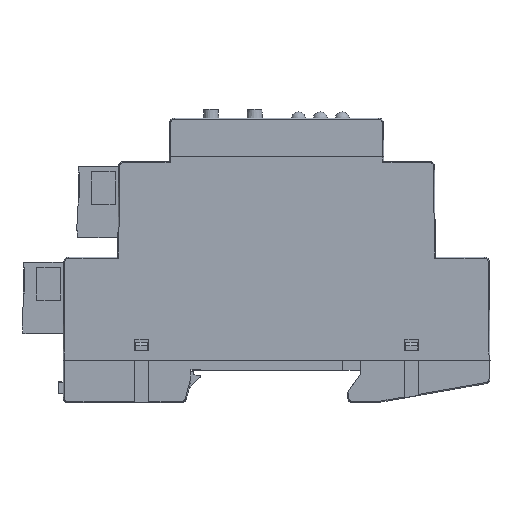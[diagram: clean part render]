
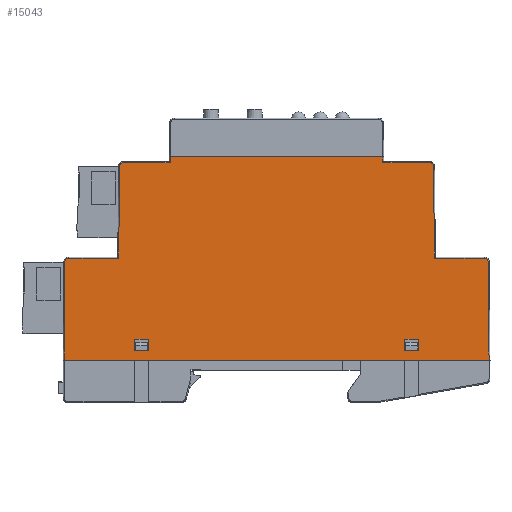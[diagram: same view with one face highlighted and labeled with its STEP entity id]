
A CAD part, top view. The second image highlights one B-rep face of the part: STEP entity #15043.
In plain terms, the highlighted planar face has unit normal (0, 0, 1).
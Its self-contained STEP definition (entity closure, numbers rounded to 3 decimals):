
#56=(
BOUNDED_CURVE()
B_SPLINE_CURVE(2,(#23914,#23915,#23916),.UNSPECIFIED.,.F.,.F.)
B_SPLINE_CURVE_WITH_KNOTS((3,3),(0.,0.12),
 .UNSPECIFIED.)
CURVE()
GEOMETRIC_REPRESENTATION_ITEM()
RATIONAL_B_SPLINE_CURVE((1.,0.984,0.984))
REPRESENTATION_ITEM('')
);
#124=FACE_BOUND('',#3019,.T.);
#125=FACE_BOUND('',#3020,.T.);
#1486=PLANE('',#16126);
#2187=FACE_OUTER_BOUND('',#3018,.T.);
#3018=EDGE_LOOP('',(#13463,#13464,#13465,#13466,#13467,#13468,#13469,#13470,
#13471,#13472,#13473,#13474,#13475,#13476,#13477,#13478));
#3019=EDGE_LOOP('',(#13479,#13480,#13481,#13482));
#3020=EDGE_LOOP('',(#13483,#13484,#13485,#13486));
#4534=LINE('',#23693,#6168);
#4572=LINE('',#23874,#6206);
#4575=LINE('',#23879,#6209);
#4577=LINE('',#23884,#6211);
#4580=LINE('',#23889,#6214);
#4589=LINE('',#23918,#6223);
#4590=LINE('',#23922,#6224);
#4591=LINE('',#23924,#6225);
#4592=LINE('',#23927,#6226);
#4593=LINE('',#23929,#6227);
#4594=LINE('',#23933,#6228);
#4595=LINE('',#23935,#6229);
#4596=LINE('',#23939,#6230);
#4597=LINE('',#23941,#6231);
#4598=LINE('',#23942,#6232);
#4599=LINE('',#23944,#6233);
#4600=LINE('',#23945,#6234);
#4601=LINE('',#23947,#6235);
#4602=LINE('',#23948,#6236);
#6168=VECTOR('',#19411,10.);
#6206=VECTOR('',#19601,10.);
#6209=VECTOR('',#19606,10.);
#6211=VECTOR('',#19610,10.);
#6214=VECTOR('',#19615,10.);
#6223=VECTOR('',#19632,10.);
#6224=VECTOR('',#19635,10.);
#6225=VECTOR('',#19636,10.);
#6226=VECTOR('',#19639,10.);
#6227=VECTOR('',#19640,10.);
#6228=VECTOR('',#19643,10.);
#6229=VECTOR('',#19644,10.);
#6230=VECTOR('',#19647,10.);
#6231=VECTOR('',#19648,10.);
#6232=VECTOR('',#19649,10.);
#6233=VECTOR('',#19650,10.);
#6234=VECTOR('',#19651,10.);
#6235=VECTOR('',#19652,10.);
#6236=VECTOR('',#19653,10.);
#6700=CIRCLE('',#16127,0.8);
#6701=CIRCLE('',#16128,0.8);
#6702=CIRCLE('',#16129,0.8);
#6703=CIRCLE('',#16130,0.8);
#7831=VERTEX_POINT('',#23690);
#7832=VERTEX_POINT('',#23692);
#7898=VERTEX_POINT('',#23871);
#7899=VERTEX_POINT('',#23873);
#7900=VERTEX_POINT('',#23877);
#7901=VERTEX_POINT('',#23881);
#7902=VERTEX_POINT('',#23883);
#7903=VERTEX_POINT('',#23887);
#7914=VERTEX_POINT('',#23912);
#7915=VERTEX_POINT('',#23913);
#7916=VERTEX_POINT('',#23917);
#7917=VERTEX_POINT('',#23919);
#7918=VERTEX_POINT('',#23921);
#7919=VERTEX_POINT('',#23923);
#7920=VERTEX_POINT('',#23925);
#7921=VERTEX_POINT('',#23928);
#7922=VERTEX_POINT('',#23930);
#7923=VERTEX_POINT('',#23932);
#7924=VERTEX_POINT('',#23934);
#7925=VERTEX_POINT('',#23936);
#7926=VERTEX_POINT('',#23938);
#7927=VERTEX_POINT('',#23940);
#7928=VERTEX_POINT('',#23943);
#7929=VERTEX_POINT('',#23946);
#9718=EDGE_CURVE('',#7831,#7832,#4534,.T.);
#9800=EDGE_CURVE('',#7899,#7898,#4572,.T.);
#9803=EDGE_CURVE('',#7898,#7900,#4575,.T.);
#9805=EDGE_CURVE('',#7902,#7901,#4577,.T.);
#9808=EDGE_CURVE('',#7901,#7903,#4580,.T.);
#9819=EDGE_CURVE('',#7914,#7915,#56,.T.);
#9820=EDGE_CURVE('',#7916,#7914,#4589,.T.);
#9821=EDGE_CURVE('',#7917,#7916,#6700,.T.);
#9822=EDGE_CURVE('',#7918,#7917,#4590,.T.);
#9823=EDGE_CURVE('',#7919,#7918,#4591,.T.);
#9824=EDGE_CURVE('',#7920,#7919,#6701,.T.);
#9825=EDGE_CURVE('',#7832,#7920,#4592,.T.);
#9826=EDGE_CURVE('',#7921,#7831,#4593,.T.);
#9827=EDGE_CURVE('',#7922,#7921,#6702,.T.);
#9828=EDGE_CURVE('',#7923,#7922,#4594,.T.);
#9829=EDGE_CURVE('',#7924,#7923,#4595,.T.);
#9830=EDGE_CURVE('',#7925,#7924,#6703,.T.);
#9831=EDGE_CURVE('',#7926,#7925,#4596,.T.);
#9832=EDGE_CURVE('',#7927,#7926,#4597,.T.);
#9833=EDGE_CURVE('',#7927,#7915,#4598,.T.);
#9834=EDGE_CURVE('',#7900,#7928,#4599,.T.);
#9835=EDGE_CURVE('',#7928,#7899,#4600,.T.);
#9836=EDGE_CURVE('',#7903,#7929,#4601,.T.);
#9837=EDGE_CURVE('',#7929,#7902,#4602,.T.);
#13463=ORIENTED_EDGE('',*,*,#9819,.F.);
#13464=ORIENTED_EDGE('',*,*,#9820,.F.);
#13465=ORIENTED_EDGE('',*,*,#9821,.F.);
#13466=ORIENTED_EDGE('',*,*,#9822,.F.);
#13467=ORIENTED_EDGE('',*,*,#9823,.F.);
#13468=ORIENTED_EDGE('',*,*,#9824,.F.);
#13469=ORIENTED_EDGE('',*,*,#9825,.F.);
#13470=ORIENTED_EDGE('',*,*,#9718,.F.);
#13471=ORIENTED_EDGE('',*,*,#9826,.F.);
#13472=ORIENTED_EDGE('',*,*,#9827,.F.);
#13473=ORIENTED_EDGE('',*,*,#9828,.F.);
#13474=ORIENTED_EDGE('',*,*,#9829,.F.);
#13475=ORIENTED_EDGE('',*,*,#9830,.F.);
#13476=ORIENTED_EDGE('',*,*,#9831,.F.);
#13477=ORIENTED_EDGE('',*,*,#9832,.F.);
#13478=ORIENTED_EDGE('',*,*,#9833,.T.);
#13479=ORIENTED_EDGE('',*,*,#9800,.T.);
#13480=ORIENTED_EDGE('',*,*,#9803,.T.);
#13481=ORIENTED_EDGE('',*,*,#9834,.T.);
#13482=ORIENTED_EDGE('',*,*,#9835,.T.);
#13483=ORIENTED_EDGE('',*,*,#9836,.T.);
#13484=ORIENTED_EDGE('',*,*,#9837,.T.);
#13485=ORIENTED_EDGE('',*,*,#9805,.T.);
#13486=ORIENTED_EDGE('',*,*,#9808,.T.);
#15043=ADVANCED_FACE('',(#2187,#124,#125),#1486,.T.);
#16126=AXIS2_PLACEMENT_3D('',#23911,#19630,#19631);
#16127=AXIS2_PLACEMENT_3D('',#23920,#19633,#19634);
#16128=AXIS2_PLACEMENT_3D('',#23926,#19637,#19638);
#16129=AXIS2_PLACEMENT_3D('',#23931,#19641,#19642);
#16130=AXIS2_PLACEMENT_3D('',#23937,#19645,#19646);
#19411=DIRECTION('',(-1.,0.,0.));
#19601=DIRECTION('',(0.,-1.,0.));
#19606=DIRECTION('',(-1.,0.,0.));
#19610=DIRECTION('',(0.,-1.,0.));
#19615=DIRECTION('',(-1.,0.,0.));
#19630=DIRECTION('center_axis',(0.,0.,
1.));
#19631=DIRECTION('ref_axis',(1.,0.,0.));
#19632=DIRECTION('',(1.,0.,0.));
#19633=DIRECTION('center_axis',(0.,0.,
-1.));
#19634=DIRECTION('ref_axis',(-0.704,0.71,0.));
#19635=DIRECTION('',(0.009,1.,0.));
#19636=DIRECTION('',(1.,0.,0.));
#19637=DIRECTION('center_axis',(0.,0.,
-1.));
#19638=DIRECTION('ref_axis',(-0.704,0.71,0.));
#19639=DIRECTION('',(0.009,1.,0.));
#19640=DIRECTION('',(0.009,-1.,0.));
#19641=DIRECTION('center_axis',(0.,0.,
-1.));
#19642=DIRECTION('ref_axis',(0.704,0.71,0.));
#19643=DIRECTION('',(1.,0.,0.));
#19644=DIRECTION('',(0.009,-1.,0.));
#19645=DIRECTION('center_axis',(0.,0.,
-1.));
#19646=DIRECTION('ref_axis',(0.704,0.71,0.));
#19647=DIRECTION('',(1.,0.,0.));
#19648=DIRECTION('',(0.009,-1.,0.));
#19649=DIRECTION('',(-1.,0.,0.));
#19650=DIRECTION('',(0.,1.,0.));
#19651=DIRECTION('',(1.,0.,0.));
#19652=DIRECTION('',(0.,1.,0.));
#19653=DIRECTION('',(1.,0.,0.));
#23690=CARTESIAN_POINT('',(44.7,1.15,8.9));
#23692=CARTESIAN_POINT('',(-44.7,1.15,8.9));
#23693=CARTESIAN_POINT('',(44.9,1.15,8.9));
#23871=CARTESIAN_POINT('',(29.8,3.05,8.9));
#23873=CARTESIAN_POINT('',(29.8,5.55,8.9));
#23874=CARTESIAN_POINT('',(29.8,15.969,8.9));
#23877=CARTESIAN_POINT('',(27.,3.05,8.9));
#23879=CARTESIAN_POINT('',(3.868,3.05,8.9));
#23881=CARTESIAN_POINT('',(-27.,3.05,8.9));
#23883=CARTESIAN_POINT('',(-27.,5.55,8.9));
#23884=CARTESIAN_POINT('',(-27.,17.219,8.9));
#23887=CARTESIAN_POINT('',(-29.8,3.05,8.9));
#23889=CARTESIAN_POINT('',(-3.868,3.05,8.9));
#23911=CARTESIAN_POINT('Origin',(19.263,28.888,8.9));
#23912=CARTESIAN_POINT('',(-22.401,42.7,8.9));
#23913=CARTESIAN_POINT('',(-22.341,43.9,8.9));
#23914=CARTESIAN_POINT('Ctrl Pts',(-22.401,42.7,8.9));
#23915=CARTESIAN_POINT('Ctrl Pts',(-22.367,43.9,8.9));
#23916=CARTESIAN_POINT('Ctrl Pts',(-22.341,43.9,8.9));
#23917=CARTESIAN_POINT('',(-32.233,42.7,8.9));
#23918=CARTESIAN_POINT('',(-20.907,42.7,8.9));
#23919=CARTESIAN_POINT('',(-33.033,41.907,8.9));
#23920=CARTESIAN_POINT('Origin',(-32.233,41.9,8.9));
#23921=CARTESIAN_POINT('',(-33.202,22.6,8.9));
#23922=CARTESIAN_POINT('',(-33.084,36.122,8.9));
#23923=CARTESIAN_POINT('',(-43.72,22.6,8.9));
#23924=CARTESIAN_POINT('',(-7.068,22.6,8.9));
#23925=CARTESIAN_POINT('',(-44.52,21.807,8.9));
#23926=CARTESIAN_POINT('Origin',(-43.72,21.8,8.9));
#23927=CARTESIAN_POINT('',(-44.482,26.121,8.9));
#23928=CARTESIAN_POINT('',(44.52,21.807,8.9));
#23929=CARTESIAN_POINT('',(44.482,26.121,8.9));
#23930=CARTESIAN_POINT('',(43.72,22.6,8.9));
#23931=CARTESIAN_POINT('Origin',(43.72,21.8,8.9));
#23932=CARTESIAN_POINT('',(33.202,22.6,8.9));
#23933=CARTESIAN_POINT('',(7.068,22.6,8.9));
#23934=CARTESIAN_POINT('',(33.033,41.907,8.9));
#23935=CARTESIAN_POINT('',(33.084,36.122,8.9));
#23936=CARTESIAN_POINT('',(32.233,42.7,8.9));
#23937=CARTESIAN_POINT('Origin',(32.233,41.9,8.9));
#23938=CARTESIAN_POINT('',(22.352,42.7,8.9));
#23939=CARTESIAN_POINT('',(1.643,42.7,8.9));
#23940=CARTESIAN_POINT('',(22.341,43.9,8.9));
#23941=CARTESIAN_POINT('',(22.322,46.125,8.9));
#23942=CARTESIAN_POINT('',(-20.902,43.9,8.9));
#23943=CARTESIAN_POINT('',(27.,5.55,8.9));
#23944=CARTESIAN_POINT('',(27.,17.219,8.9));
#23945=CARTESIAN_POINT('',(5.268,5.55,8.9));
#23946=CARTESIAN_POINT('',(-29.8,5.55,8.9));
#23947=CARTESIAN_POINT('',(-29.8,15.969,8.9));
#23948=CARTESIAN_POINT('',(-5.268,5.55,8.9));
